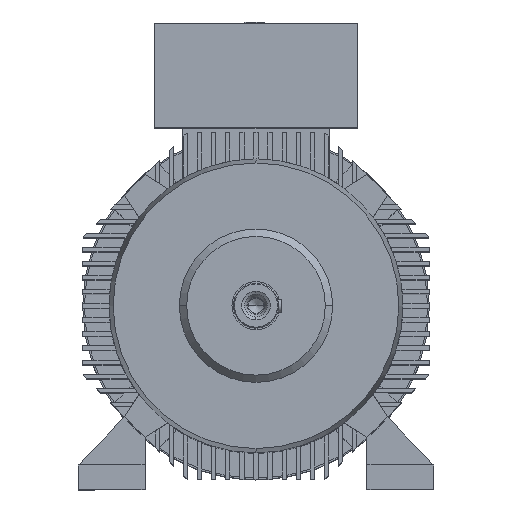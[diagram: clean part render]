
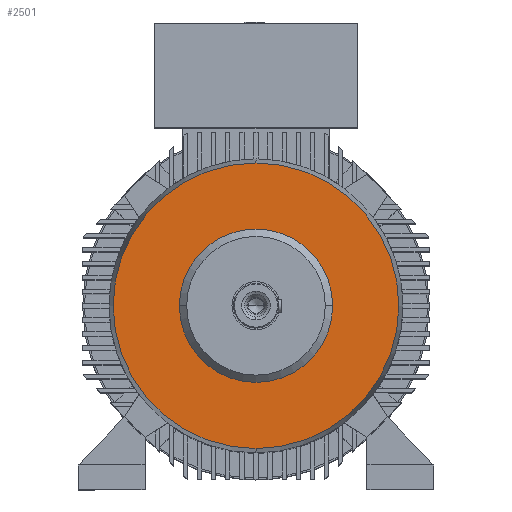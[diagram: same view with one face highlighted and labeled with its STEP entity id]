
A CAD part, top view. The second image highlights one B-rep face of the part: STEP entity #2501.
In plain terms, the highlighted planar face has unit normal (0, 0, 1).
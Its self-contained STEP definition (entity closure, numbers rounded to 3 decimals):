
#242 = FACE_OUTER_BOUND ( 'NONE', #14413, .T. ) ;
#340 = VERTEX_POINT ( 'NONE', #22393 ) ;
#393 = ORIENTED_EDGE ( 'NONE', *, *, #23772, .F. ) ;
#898 = DIRECTION ( 'NONE',  ( 0., 1., 0. ) ) ;
#1366 = DIRECTION ( 'NONE',  ( -1., 0., 0. ) ) ;
#2501 = ADVANCED_FACE ( 'NONE', ( #242, #11292 ), #19576, .F. ) ;
#3446 = CARTESIAN_POINT ( 'NONE',  ( 0., 0., 293.5 ) ) ;
#3604 = AXIS2_PLACEMENT_3D ( 'NONE', #7187, #9274, #898 ) ;
#3690 = DIRECTION ( 'NONE',  ( 0., 1., 0. ) ) ;
#3751 = VERTEX_POINT ( 'NONE', #5983 ) ;
#4118 = EDGE_CURVE ( 'NONE', #3751, #340, #19018, .T. ) ;
#4239 = CIRCLE ( 'NONE', #11996, 175.071 ) ;
#4570 = EDGE_CURVE ( 'NONE', #22176, #10336, #17352, .T. ) ;
#4705 = CARTESIAN_POINT ( 'NONE',  ( 0., 0., 293.5 ) ) ;
#5131 = DIRECTION ( 'NONE',  ( 0., 1., 0. ) ) ;
#5873 = CARTESIAN_POINT ( 'NONE',  ( 0., 0., 293.5 ) ) ;
#5983 = CARTESIAN_POINT ( 'NONE',  ( 0., 175.071, 293.5 ) ) ;
#6468 = EDGE_CURVE ( 'NONE', #340, #3751, #4239, .T. ) ;
#7187 = CARTESIAN_POINT ( 'NONE',  ( 0., 0., 293.5 ) ) ;
#7643 = DIRECTION ( 'NONE',  ( 0., 0., 1. ) ) ;
#9050 = DIRECTION ( 'NONE',  ( -1., 0., 0. ) ) ;
#9274 = DIRECTION ( 'NONE',  ( 0., 0., -1. ) ) ;
#10336 = VERTEX_POINT ( 'NONE', #25011 ) ;
#11137 = DIRECTION ( 'NONE',  ( 0., 0., -1. ) ) ;
#11292 = FACE_BOUND ( 'NONE', #25665, .T. ) ;
#11804 = AXIS2_PLACEMENT_3D ( 'NONE', #3446, #7643, #1366 ) ;
#11996 = AXIS2_PLACEMENT_3D ( 'NONE', #5873, #24656, #3690 ) ;
#14413 = EDGE_LOOP ( 'NONE', ( #18180, #22589 ) ) ;
#17311 = DIRECTION ( 'NONE',  ( 0., 0., 1. ) ) ;
#17352 = CIRCLE ( 'NONE', #11804, 94. ) ;
#18180 = ORIENTED_EDGE ( 'NONE', *, *, #4118, .F. ) ;
#18858 = CIRCLE ( 'NONE', #25815, 94. ) ;
#19018 = CIRCLE ( 'NONE', #3604, 175.071 ) ;
#19319 = ORIENTED_EDGE ( 'NONE', *, *, #4570, .F. ) ;
#19576 = PLANE ( 'NONE',  #21844 ) ;
#21844 = AXIS2_PLACEMENT_3D ( 'NONE', #25838, #11137, #5131 ) ;
#22176 = VERTEX_POINT ( 'NONE', #24058 ) ;
#22393 = CARTESIAN_POINT ( 'NONE',  ( 0., -175.071, 293.5 ) ) ;
#22589 = ORIENTED_EDGE ( 'NONE', *, *, #6468, .F. ) ;
#23772 = EDGE_CURVE ( 'NONE', #10336, #22176, #18858, .T. ) ;
#24058 = CARTESIAN_POINT ( 'NONE',  ( 94., 0., 293.5 ) ) ;
#24656 = DIRECTION ( 'NONE',  ( 0., 0., -1. ) ) ;
#25011 = CARTESIAN_POINT ( 'NONE',  ( -94., 0., 293.5 ) ) ;
#25665 = EDGE_LOOP ( 'NONE', ( #393, #19319 ) ) ;
#25815 = AXIS2_PLACEMENT_3D ( 'NONE', #4705, #17311, #9050 ) ;
#25838 = CARTESIAN_POINT ( 'NONE',  ( 0., 175.071, 293.5 ) ) ;
